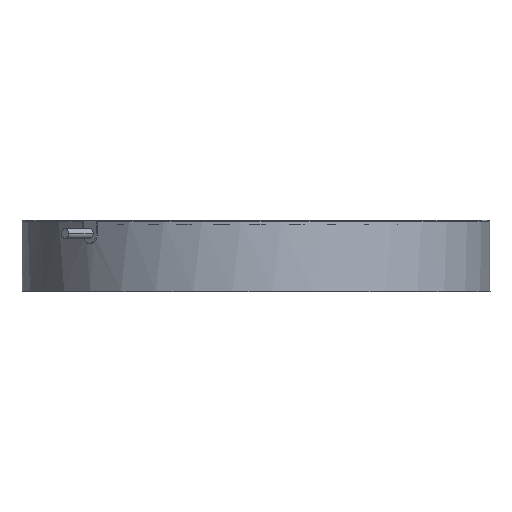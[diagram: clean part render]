
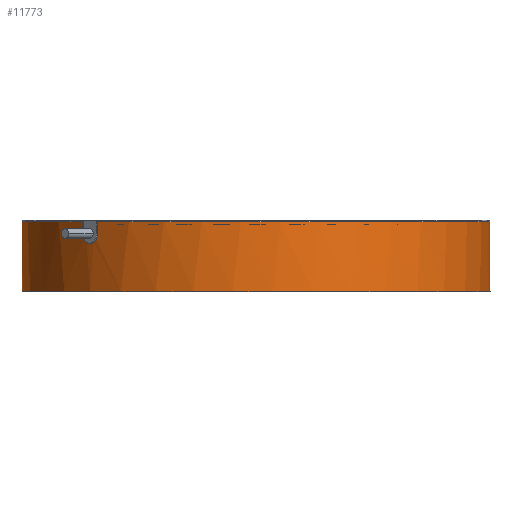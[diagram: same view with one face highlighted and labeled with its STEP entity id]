
A CAD part, left-side view. The second image highlights one B-rep face of the part: STEP entity #11773.
In plain terms, the highlighted cylindrical face has radius 115 mm (diameter 230 mm), a partial arc.
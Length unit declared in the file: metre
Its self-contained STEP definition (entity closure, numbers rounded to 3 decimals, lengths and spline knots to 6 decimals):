
#2879=DIRECTION('',(0.,0.,1.));
#2880=VECTOR('',#2879,0.005892);
#2881=CARTESIAN_POINT('',(-0.077705,0.084776,-0.003));
#2882=LINE('',#2881,#2880);
#2883=CARTESIAN_POINT('',(-0.077705,0.084776,-0.003));
#2884=CARTESIAN_POINT('',(-0.077705,0.084776,
-0.00333));
#2885=CARTESIAN_POINT('',(-0.077752,0.084733,
-0.003977));
#2886=CARTESIAN_POINT('',(-0.077963,0.084539,
-0.004924));
#2887=CARTESIAN_POINT('',(-0.078304,0.084223,
-0.005794));
#2888=CARTESIAN_POINT('',(-0.078762,0.083796,
-0.006557));
#2889=CARTESIAN_POINT('',(-0.079316,0.083272,
-0.007183));
#2890=CARTESIAN_POINT('',(-0.079944,0.082669,
-0.007649));
#2891=CARTESIAN_POINT('',(-0.080621,0.08201,
-0.007936));
#2892=CARTESIAN_POINT('',(-0.081319,0.081318,
-0.008032));
#2893=CARTESIAN_POINT('',(-0.08201,0.08062,
-0.007935));
#2894=CARTESIAN_POINT('',(-0.08267,0.079944,
-0.007649));
#2895=CARTESIAN_POINT('',(-0.083272,0.079316,
-0.007183));
#2896=CARTESIAN_POINT('',(-0.083796,0.078762,
-0.006557));
#2897=CARTESIAN_POINT('',(-0.084223,0.078304,
-0.005794));
#2898=CARTESIAN_POINT('',(-0.084539,0.077963,
-0.004924));
#2899=CARTESIAN_POINT('',(-0.084733,0.077752,
-0.003976));
#2900=CARTESIAN_POINT('',(-0.084776,0.077705,
-0.00333));
#2901=CARTESIAN_POINT('',(-0.084776,0.077705,-0.003));
#2903=DIRECTION('',(0.,0.,1.));
#2904=VECTOR('',#2903,0.005892);
#2905=CARTESIAN_POINT('',(-0.084776,0.077705,-0.003));
#2906=LINE('',#2905,#2904);
#2907=CARTESIAN_POINT('',(0.,0.,0.0029));
#2908=DIRECTION('',(0.,0.,1.));
#2909=DIRECTION('',(-0.737,0.676,0.));
#2910=AXIS2_PLACEMENT_3D('',#2907,#2908,#2909);
#2912=DIRECTION('',(0.001,-0.002,1.));
#2913=VECTOR('',#2912,0.0014);
#2914=CARTESIAN_POINT('',(0.061522,-0.09716,0.0015));
#2915=LINE('',#2914,#2913);
#2916=CARTESIAN_POINT('',(0.,0.,-0.0315));
#2917=DIRECTION('',(0.,0.,-1.));
#2918=DIRECTION('',(0.535,-0.845,0.));
#2919=AXIS2_PLACEMENT_3D('',#2916,#2917,#2918);
#2921=DIRECTION('',(-0.001,0.002,-1.));
#2922=VECTOR('',#2921,0.001399);
#2923=CARTESIAN_POINT('',(0.097162,-0.061524,
0.002899));
#2924=LINE('',#2923,#2922);
#2925=CARTESIAN_POINT('',(0.,0.,0.002899));
#2926=DIRECTION('',(0.,0.,1.));
#2927=DIRECTION('',(0.845,-0.535,0.));
#2928=AXIS2_PLACEMENT_3D('',#2925,#2926,#2927);
#2941=CARTESIAN_POINT('',(0.097162,-0.061524,
0.002899));
#3708=DIRECTION('',(0.,0.,-1.));
#3709=VECTOR('',#3708,0.033);
#3710=CARTESIAN_POINT('',(0.09716,-0.061522,0.0015));
#3711=LINE('',#3710,#3709);
#3712=DIRECTION('',(0.,0.,1.));
#3713=VECTOR('',#3712,0.033);
#3714=CARTESIAN_POINT('',(0.061522,-0.09716,-0.0315));
#3715=LINE('',#3714,#3713);
#5882=CARTESIAN_POINT('',(0.09716,-0.061522,-0.0315));
#5883=CARTESIAN_POINT('',(0.061522,-0.09716,-0.0315));
#5884=VERTEX_POINT('',#5882);
#5885=VERTEX_POINT('',#5883);
#5964=CARTESIAN_POINT('',(0.09716,-0.061522,0.0015));
#5965=VERTEX_POINT('',#5964);
#5967=CARTESIAN_POINT('',(0.061522,-0.09716,0.0015));
#5969=VERTEX_POINT('',#5967);
#5980=VERTEX_POINT('',#2941);
#5983=CARTESIAN_POINT('',(0.061523,-0.097162,
0.0029));
#5984=VERTEX_POINT('',#5983);
#7273=CARTESIAN_POINT('',(-0.077705,0.084776,-0.003));
#7274=CARTESIAN_POINT('',(-0.077705,0.084776,
0.002892));
#7275=VERTEX_POINT('',#7273);
#7276=VERTEX_POINT('',#7274);
#7277=VERTEX_POINT('',#2901);
#7278=CARTESIAN_POINT('',(-0.084776,0.077705,
0.002892));
#7279=VERTEX_POINT('',#7278);
#11748=CARTESIAN_POINT('',(0.,0.,-0.03298));
#11749=DIRECTION('',(0.,0.,1.));
#11750=DIRECTION('',(0.,1.,0.));
#11751=AXIS2_PLACEMENT_3D('',#11748,#11749,#11750);
#11752=CYLINDRICAL_SURFACE('',#11751,0.115);
#11754=ORIENTED_EDGE('',*,*,#11753,.F.);
#11756=ORIENTED_EDGE('',*,*,#11755,.T.);
#11757=ORIENTED_EDGE('',*,*,#11713,.T.);
#11759=ORIENTED_EDGE('',*,*,#11758,.T.);
#11761=ORIENTED_EDGE('',*,*,#11760,.F.);
#11763=ORIENTED_EDGE('',*,*,#11762,.F.);
#11764=ORIENTED_EDGE('',*,*,#7820,.T.);
#11766=ORIENTED_EDGE('',*,*,#11765,.F.);
#11768=ORIENTED_EDGE('',*,*,#11767,.F.);
#11770=ORIENTED_EDGE('',*,*,#11769,.T.);
#11771=EDGE_LOOP('',(#11754,#11756,#11757,#11759,#11761,#11763,#11764,#11766,
#11768,#11770));
#11772=FACE_OUTER_BOUND('',#11771,.F.);
#11773=ADVANCED_FACE('',(#11772),#11752,.T.);
#2902=B_SPLINE_CURVE_WITH_KNOTS('',3,(#2883,#2884,#2885,#2886,#2887,#2888,#2889,
#2890,#2891,#2892,#2893,#2894,#2895,#2896,#2897,#2898,#2899,#2900,#2901),
.UNSPECIFIED.,.F.,.F.,(4,1,1,1,1,1,1,1,1,1,1,1,1,1,1,1,4),(0.,0.0625,0.125,
0.1875,0.25,0.3125,0.375,0.4375,0.5,0.5625,0.625,0.6875,
0.75,0.8125,0.875,0.9375,1.),.UNSPECIFIED.);
#2911=CIRCLE('',#2910,0.115);
#2920=CIRCLE('',#2919,0.115);
#2929=CIRCLE('',#2928,0.115);
#7820=EDGE_CURVE('',#5885,#5884,#2920,.T.);
#11713=EDGE_CURVE('',#7277,#7279,#2906,.T.);
#11753=EDGE_CURVE('',#7275,#7276,#2882,.T.);
#11755=EDGE_CURVE('',#7275,#7277,#2902,.T.);
#11758=EDGE_CURVE('',#7279,#5984,#2911,.T.);
#11760=EDGE_CURVE('',#5969,#5984,#2915,.T.);
#11762=EDGE_CURVE('',#5885,#5969,#3715,.T.);
#11765=EDGE_CURVE('',#5965,#5884,#3711,.T.);
#11767=EDGE_CURVE('',#5980,#5965,#2924,.T.);
#11769=EDGE_CURVE('',#5980,#7276,#2929,.T.);
